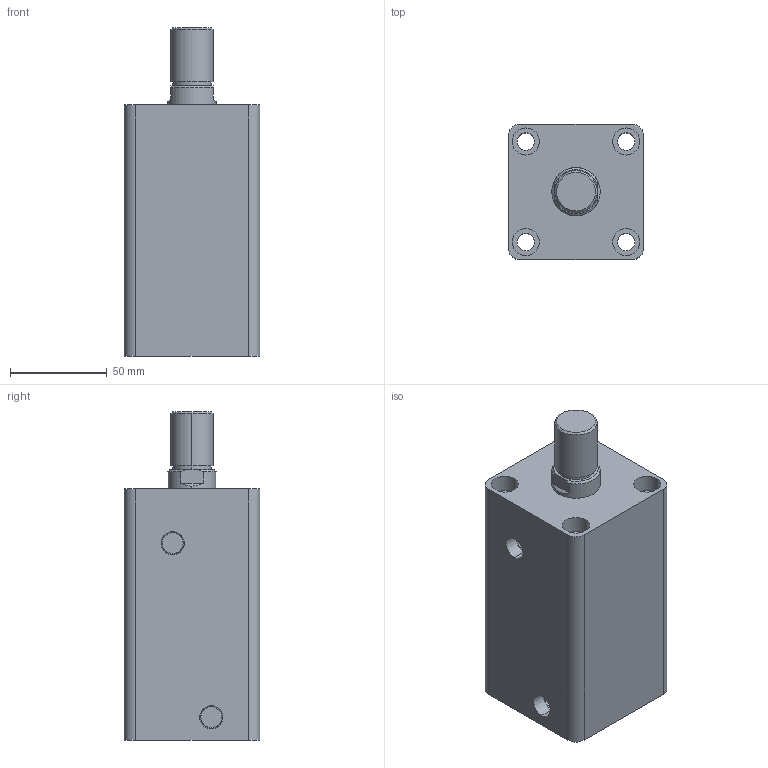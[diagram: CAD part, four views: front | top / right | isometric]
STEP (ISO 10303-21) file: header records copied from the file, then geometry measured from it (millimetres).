
FILE_DESCRIPTION (( 'STEP AP203' ), '1' );
FILE_NAME ('HTB-SD40-75W.STEP', '2019-10-07T06:55:37', ( '微软用户' ), ( '微软中国' ), 'SwSTEP 2.0', 'SolidWorks 2012', '' );
FILE_SCHEMA (( 'CONFIG_CONTROL_DESIGN' ));
Length unit declared in the file: millimetre
Products named in the file (3): HTB-SD40-75掛极; HTB-SD40-75W活塞杆; HTB-SD40-75W
Assembly tree (2 placements, depth 2):
  HTB-SD40-75W
    HTB-SD40-75掛极
    HTB-SD40-75W活塞杆
Bounding box: 70 x 70 x 170 mm (x, y, z)
Volume: 549948.7 mm3; surface area: 91752.9 mm2
Topology: 2 solids, 2 shells, 85 faces, 186 edges, 122 vertices
Faces by surface type: cylinder 44, plane 29, cone 8, torus 4
Entity records: 2709 total; most frequent: DIRECTION 466, CARTESIAN_POINT 426, ORIENTED_EDGE 372, AXIS2_PLACEMENT_3D 198, EDGE_CURVE 186, VERTEX_POINT 122, EDGE_LOOP 110, CIRCLE 108
